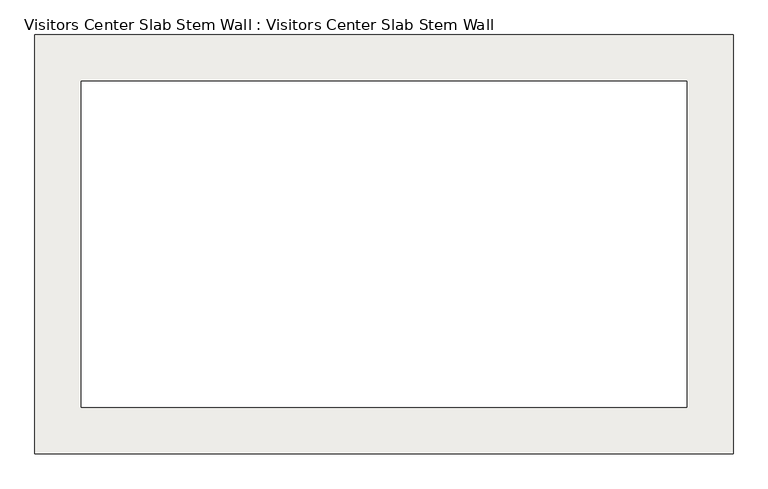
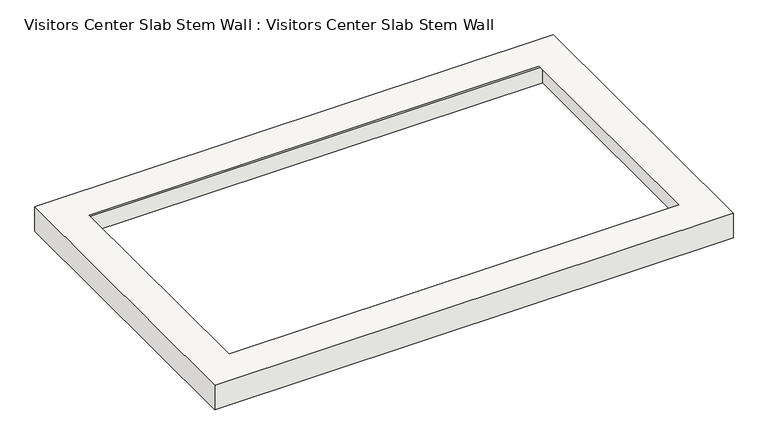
"""IFC4 building model written with IfcOpenShell, lengths in millimetres: slab geometry, Visitors Center Slab Stem Wall : Visitors Center Slab Stem Wall."""

from ifc_helpers import new_model, si_unit, origin, place, context, project, spatial, faceted_brep, source, transform, mapped, element, save


def visitors_center_slab_stem_wall_visitors_center_slab_stem_61e19dc0(model_context):
    return source(origin(), model_context, "Body", "Brep", [
        faceted_brep([(449.9321363, -14037.7650713, -558.8), (449.9321363, -14037.7650713, -355.6), (449.9321363, -10989.7650713, -355.6), (449.9321363, -10989.7650713, -558.8), (754.7321363, -14342.5650713, -254.0), (754.7321363, -14342.5650713, -558.8), (754.7321363, -10684.9650713, -558.8), (754.7321363, -10684.9650713, -254.0), (-5036.4678637, -10989.7650713, -355.6), (-5036.4678637, -10989.7650713, -558.8), (-5341.2678637, -10684.9650713, -558.8), (-5341.2678637, -10684.9650713, -254.0), (-5036.4678637, -14037.7650713, -355.6), (-5036.4678637, -14037.7650713, -558.8), (-5341.2678637, -14342.5650713, -558.8), (-5341.2678637, -14342.5650713, -254.0), (348.3321363, -13936.1650713, -254.0), (-4934.8678637, -13936.1650713, -254.0), (-4934.8678637, -11091.3650713, -254.0), (348.3321363, -11091.3650713, -254.0)], [[[0, 1, 2, 3]], [[4, 5, 6, 7]], [[3, 2, 8, 9]], [[7, 6, 10, 11]], [[9, 8, 12, 13]], [[11, 10, 14, 15]], [[13, 12, 1, 0]], [[5, 14, 10, 6], [3, 9, 13, 0]], [[15, 14, 5, 4]], [[7, 11, 15, 4], [16, 17, 18, 19]], [[1, 16, 19, 2]], [[2, 19, 18, 8]], [[8, 18, 17, 12]], [[12, 17, 16, 1]]]),
    ])


if __name__ == "__main__":
    model = new_model("IFC4")
    model_context = context("Model", 3, world=origin())
    ifc_project = project(units=[si_unit("LENGTHUNIT", "METRE", prefix="MILLI")], contexts=[model_context])
    site = spatial("IfcSite", under=ifc_project)
    building = spatial("IfcBuilding", under=site)
    placement = place(None, origin())
    visitors_center_slab_stem_wall_visitors_center_slab_stem_shape = visitors_center_slab_stem_wall_visitors_center_slab_stem_61e19dc0(model_context)
    element("IfcSlab", 1, ObjectType="Visitors Center Slab Stem Wall : Visitors Center Slab Stem Wall", at=placement, inside=building, context=model_context, shape_type="MappedRepresentation", body=[
        mapped(visitors_center_slab_stem_wall_visitors_center_slab_stem_shape, transform((0.0, 0.0, 0.0), x_axis=(1.0, 0.0, 0.0), y_axis=(0.0, 1.0, 0.0), z_axis=(0.0, 0.0, 1.0))),
    ])
    save(model, "model.ifc")
